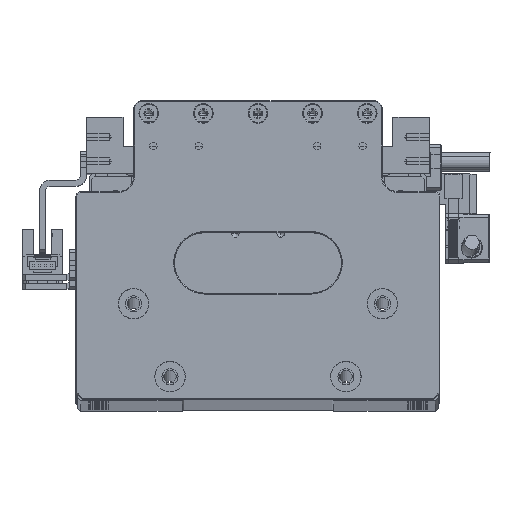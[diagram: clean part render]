
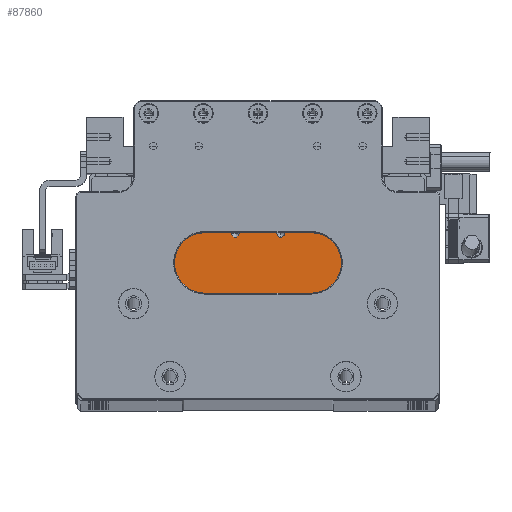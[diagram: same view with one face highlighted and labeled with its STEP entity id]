
A CAD part, top view. The second image highlights one B-rep face of the part: STEP entity #87860.
In plain terms, the highlighted planar face has unit normal (0, 0, 1).
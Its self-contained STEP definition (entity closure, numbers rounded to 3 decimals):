
#2123 = DIRECTION ( 'NONE',  ( 0., 0., -1. ) ) ;
#2205 = CARTESIAN_POINT ( 'NONE',  ( -34.432, -49.223, 375. ) ) ;
#4378 = EDGE_CURVE ( 'NONE', #24035, #53035, #96695, .T. ) ;
#5453 = CARTESIAN_POINT ( 'NONE',  ( -4.632, -9.223, 375. ) ) ;
#5491 = EDGE_CURVE ( 'NONE', #17801, #126385, #102818, .T. ) ;
#6945 = VECTOR ( 'NONE', #119664, 1000. ) ;
#8947 = DIRECTION ( 'NONE',  ( 0., 0., -1. ) ) ;
#10652 = CARTESIAN_POINT ( 'NONE',  ( 25.168, -9.023, 375. ) ) ;
#11629 = VERTEX_POINT ( 'NONE', #30069 ) ;
#11644 = EDGE_CURVE ( 'NONE', #53035, #61348, #105102, .T. ) ;
#12052 = CARTESIAN_POINT ( 'NONE',  ( -23.132, -17.023, 375. ) ) ;
#16128 = PLANE ( 'NONE',  #126675 ) ;
#17801 = VERTEX_POINT ( 'NONE', #45778 ) ;
#18260 = EDGE_LOOP ( 'NONE', ( #129915, #20352 ) ) ;
#18780 = DIRECTION ( 'NONE',  ( 1., 0., 0. ) ) ;
#20352 = ORIENTED_EDGE ( 'NONE', *, *, #48576, .T. ) ;
#22247 = ORIENTED_EDGE ( 'NONE', *, *, #119745, .T. ) ;
#23360 = FACE_OUTER_BOUND ( 'NONE', #25648, .T. ) ;
#24035 = VERTEX_POINT ( 'NONE', #2205 ) ;
#24220 = VERTEX_POINT ( 'NONE', #127191 ) ;
#24350 = VECTOR ( 'NONE', #91511, 1000. ) ;
#25648 = EDGE_LOOP ( 'NONE', ( #125981, #126513, #114753, #111689, #83947, #37021, #50242, #62772 ) ) ;
#26245 = DIRECTION ( 'NONE',  ( 0., 0., 1. ) ) ;
#29417 = ORIENTED_EDGE ( 'NONE', *, *, #5491, .T. ) ;
#29461 = CARTESIAN_POINT ( 'NONE',  ( -4.632, -17.023, 375. ) ) ;
#30069 = CARTESIAN_POINT ( 'NONE',  ( 1.618, -17.023, 375. ) ) ;
#31654 = CARTESIAN_POINT ( 'NONE',  ( 13.868, -17.023, 375. ) ) ;
#33094 = EDGE_CURVE ( 'NONE', #108755, #69931, #114477, .T. ) ;
#33196 = EDGE_CURVE ( 'NONE', #100334, #63623, #108164, .T. ) ;
#34237 = CARTESIAN_POINT ( 'NONE',  ( -10.882, -17.023, 375. ) ) ;
#35478 = CARTESIAN_POINT ( 'NONE',  ( 2.868, -17.023, 375. ) ) ;
#36996 = DIRECTION ( 'NONE',  ( 0., -1., 0. ) ) ;
#37021 = ORIENTED_EDGE ( 'NONE', *, *, #11644, .T. ) ;
#45700 = DIRECTION ( 'NONE',  ( 1., 0., 0. ) ) ;
#45778 = CARTESIAN_POINT ( 'NONE',  ( -13.382, -17.023, 375. ) ) ;
#46104 = CIRCLE ( 'NONE', #79608, 1.25 ) ;
#46138 = CARTESIAN_POINT ( 'NONE',  ( 25.168, -17.023, 375. ) ) ;
#48576 = EDGE_CURVE ( 'NONE', #11629, #24220, #46104, .T. ) ;
#48664 = AXIS2_PLACEMENT_3D ( 'NONE', #69497, #8947, #79667 ) ;
#49395 = DIRECTION ( 'NONE',  ( 0., 0., -1. ) ) ;
#49765 = CARTESIAN_POINT ( 'NONE',  ( 13.868, -9.223, 375. ) ) ;
#49965 = CARTESIAN_POINT ( 'NONE',  ( 25.168, -49.223, 375. ) ) ;
#50242 = ORIENTED_EDGE ( 'NONE', *, *, #107870, .T. ) ;
#53035 = VERTEX_POINT ( 'NONE', #49965 ) ;
#58464 = EDGE_LOOP ( 'NONE', ( #22247, #29417 ) ) ;
#59519 = DIRECTION ( 'NONE',  ( -1., 0., 0. ) ) ;
#59784 = CIRCLE ( 'NONE', #124764, 1.25 ) ;
#61348 = VERTEX_POINT ( 'NONE', #46138 ) ;
#62638 = CARTESIAN_POINT ( 'NONE',  ( -12.132, -17.023, 375. ) ) ;
#62772 = ORIENTED_EDGE ( 'NONE', *, *, #33094, .T. ) ;
#63304 = CIRCLE ( 'NONE', #48664, 1.25 ) ;
#63623 = VERTEX_POINT ( 'NONE', #78172 ) ;
#66230 = VECTOR ( 'NONE', #36996, 1000. ) ;
#67177 = CARTESIAN_POINT ( 'NONE',  ( -4.632, -17.023, 375. ) ) ;
#69497 = CARTESIAN_POINT ( 'NONE',  ( -12.132, -17.023, 375. ) ) ;
#69931 = VERTEX_POINT ( 'NONE', #49765 ) ;
#72867 = DIRECTION ( 'NONE',  ( 1., 0., 0. ) ) ;
#77192 = FACE_BOUND ( 'NONE', #18260, .T. ) ;
#78172 = CARTESIAN_POINT ( 'NONE',  ( -34.432, -17.023, 375. ) ) ;
#79347 = CARTESIAN_POINT ( 'NONE',  ( -34.632, -49.223, 375. ) ) ;
#79608 = AXIS2_PLACEMENT_3D ( 'NONE', #35478, #106253, #45700 ) ;
#79667 = DIRECTION ( 'NONE',  ( 1., 0., 0. ) ) ;
#80385 = FACE_BOUND ( 'NONE', #58464, .T. ) ;
#81278 = VECTOR ( 'NONE', #59519, 1000. ) ;
#82010 = EDGE_CURVE ( 'NONE', #69931, #100261, #84906, .T. ) ;
#83755 = AXIS2_PLACEMENT_3D ( 'NONE', #62638, #2123, #72867 ) ;
#83947 = ORIENTED_EDGE ( 'NONE', *, *, #4378, .T. ) ;
#84906 = LINE ( 'NONE', #5453, #91250 ) ;
#86331 = DIRECTION ( 'NONE',  ( -1., 0., 0. ) ) ;
#87860 = ADVANCED_FACE ( 'NONE', ( #23360, #77192, #80385 ), #16128, .T. ) ;
#88552 = VECTOR ( 'NONE', #118033, 1000. ) ;
#89142 = CARTESIAN_POINT ( 'NONE',  ( 13.868, -9.023, 375. ) ) ;
#91250 = VECTOR ( 'NONE', #86331, 1000. ) ;
#91330 = EDGE_CURVE ( 'NONE', #63623, #24035, #100223, .T. ) ;
#91511 = DIRECTION ( 'NONE',  ( 0., 1., 0. ) ) ;
#96607 = CARTESIAN_POINT ( 'NONE',  ( -4.632, -9.023, 375. ) ) ;
#96695 = LINE ( 'NONE', #79347, #126692 ) ;
#97062 = DIRECTION ( 'NONE',  ( 1., 0., 0. ) ) ;
#100223 = LINE ( 'NONE', #110206, #120688 ) ;
#100261 = VERTEX_POINT ( 'NONE', #100528 ) ;
#100334 = VERTEX_POINT ( 'NONE', #12052 ) ;
#100528 = CARTESIAN_POINT ( 'NONE',  ( -23.132, -9.223, 375. ) ) ;
#102723 = LINE ( 'NONE', #107748, #66230 ) ;
#102818 = CIRCLE ( 'NONE', #83755, 1.25 ) ;
#102834 = LINE ( 'NONE', #67177, #88552 ) ;
#105102 = LINE ( 'NONE', #10652, #24350 ) ;
#106253 = DIRECTION ( 'NONE',  ( 0., 0., -1. ) ) ;
#107748 = CARTESIAN_POINT ( 'NONE',  ( -23.132, -9.023, 375. ) ) ;
#107870 = EDGE_CURVE ( 'NONE', #61348, #108755, #102834, .T. ) ;
#108164 = LINE ( 'NONE', #29461, #81278 ) ;
#108755 = VERTEX_POINT ( 'NONE', #31654 ) ;
#109962 = CARTESIAN_POINT ( 'NONE',  ( 2.868, -17.023, 375. ) ) ;
#110206 = CARTESIAN_POINT ( 'NONE',  ( -34.432, -9.023, 375. ) ) ;
#111689 = ORIENTED_EDGE ( 'NONE', *, *, #91330, .T. ) ;
#114477 = LINE ( 'NONE', #89142, #6945 ) ;
#114753 = ORIENTED_EDGE ( 'NONE', *, *, #33196, .T. ) ;
#118033 = DIRECTION ( 'NONE',  ( -1., 0., 0. ) ) ;
#119664 = DIRECTION ( 'NONE',  ( 0., 1., 0. ) ) ;
#119745 = EDGE_CURVE ( 'NONE', #126385, #17801, #63304, .T. ) ;
#120112 = DIRECTION ( 'NONE',  ( 1., 0., 0. ) ) ;
#120350 = DIRECTION ( 'NONE',  ( 0., -1., 0. ) ) ;
#120688 = VECTOR ( 'NONE', #120350, 1000. ) ;
#120741 = EDGE_CURVE ( 'NONE', #100261, #100334, #102723, .T. ) ;
#124764 = AXIS2_PLACEMENT_3D ( 'NONE', #109962, #49395, #120112 ) ;
#125981 = ORIENTED_EDGE ( 'NONE', *, *, #82010, .T. ) ;
#126385 = VERTEX_POINT ( 'NONE', #34237 ) ;
#126513 = ORIENTED_EDGE ( 'NONE', *, *, #120741, .T. ) ;
#126675 = AXIS2_PLACEMENT_3D ( 'NONE', #96607, #26245, #97062 ) ;
#126692 = VECTOR ( 'NONE', #18780, 1000. ) ;
#127191 = CARTESIAN_POINT ( 'NONE',  ( 4.118, -17.023, 375. ) ) ;
#128686 = EDGE_CURVE ( 'NONE', #24220, #11629, #59784, .T. ) ;
#129915 = ORIENTED_EDGE ( 'NONE', *, *, #128686, .T. ) ;
